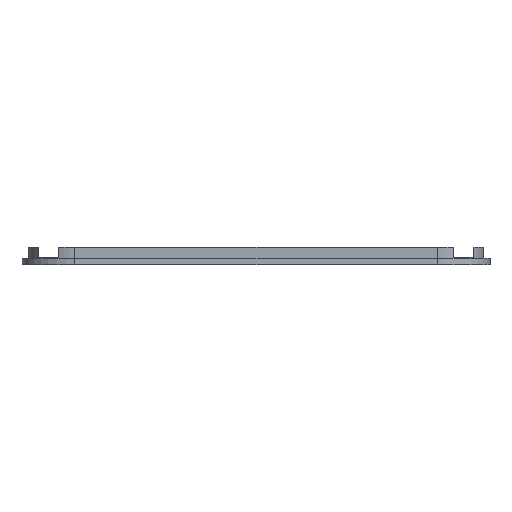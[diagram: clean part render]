
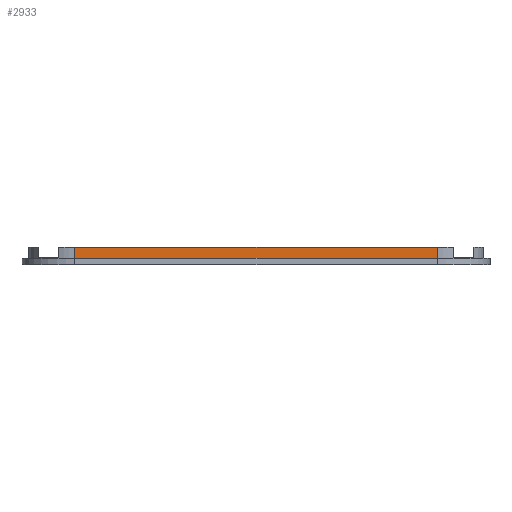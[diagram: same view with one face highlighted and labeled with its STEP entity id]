
A CAD part, left-side view. The second image highlights one B-rep face of the part: STEP entity #2933.
In plain terms, the highlighted planar face has unit normal (-1, 0, 0).
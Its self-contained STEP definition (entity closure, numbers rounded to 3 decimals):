
#176=PLANE('',#3209);
#327=FACE_OUTER_BOUND('',#525,.T.);
#525=EDGE_LOOP('',(#2593,#2594,#2595,#2596));
#811=LINE('',#4708,#1105);
#832=LINE('',#4800,#1126);
#845=LINE('',#4842,#1139);
#846=LINE('',#4844,#1140);
#1105=VECTOR('',#3843,10.);
#1126=VECTOR('',#3946,10.);
#1139=VECTOR('',#4001,10.);
#1140=VECTOR('',#4004,10.);
#1483=VERTEX_POINT('',#4705);
#1484=VERTEX_POINT('',#4707);
#1513=VERTEX_POINT('',#4797);
#1514=VERTEX_POINT('',#4799);
#1845=EDGE_CURVE('',#1483,#1484,#811,.T.);
#1893=EDGE_CURVE('',#1513,#1514,#832,.T.);
#1913=EDGE_CURVE('',#1514,#1483,#845,.T.);
#1914=EDGE_CURVE('',#1484,#1513,#846,.T.);
#2593=ORIENTED_EDGE('',*,*,#1913,.F.);
#2594=ORIENTED_EDGE('',*,*,#1893,.F.);
#2595=ORIENTED_EDGE('',*,*,#1914,.F.);
#2596=ORIENTED_EDGE('',*,*,#1845,.F.);
#2933=ADVANCED_FACE('',(#327),#176,.T.);
#3209=AXIS2_PLACEMENT_3D('',#4843,#4002,#4003);
#3843=DIRECTION('',(0.,1.,0.));
#3946=DIRECTION('',(0.,-1.,0.));
#4001=DIRECTION('',(0.,0.,-1.));
#4002=DIRECTION('center_axis',(-1.,0.,0.));
#4003=DIRECTION('ref_axis',(0.,-1.,0.));
#4004=DIRECTION('',(0.,0.,1.));
#4705=CARTESIAN_POINT('',(-111.65,-81.,3.));
#4707=CARTESIAN_POINT('',(-111.65,81.,3.));
#4708=CARTESIAN_POINT('',(-111.65,50.825,3.));
#4797=CARTESIAN_POINT('',(-111.65,81.,8.));
#4799=CARTESIAN_POINT('',(-111.65,-81.,8.));
#4800=CARTESIAN_POINT('',(-111.65,101.65,8.));
#4842=CARTESIAN_POINT('',(-111.65,-81.,3.));
#4843=CARTESIAN_POINT('Origin',(-111.65,101.65,3.));
#4844=CARTESIAN_POINT('',(-111.65,81.,3.));
